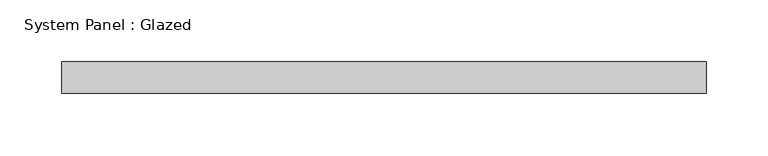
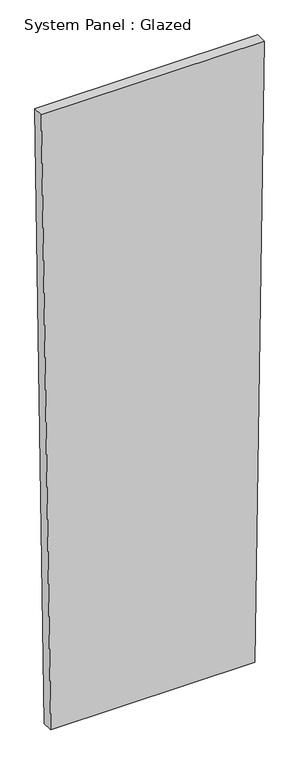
"""IFC4 building model written with IfcOpenShell, lengths in millimetres: plate geometry, System Panel : Glazed."""

from ifc_helpers import new_model, si_unit, frame, origin, place, context, project, spatial, polyline, outline, extrude, source, transform, mapped, element, save


def system_panel_glazed_03378611(model_context):
    return source(origin(), model_context, "Body", "SweptSolid", [
        extrude(outline(polyline([(0.0, -237.8357952), (0.0, 237.8357952), (1523.8417351, 259.7986329), (1523.8417351, -259.7986329), (0.0, -237.8357952)])), frame((0.0, -44.45, 0.0), z_axis=(0.0, 1.0, 0.0), x_axis=(0.0, 0.0, 1.0)), (0.0, 0.0, 1.0), 25.4),
    ])


if __name__ == "__main__":
    model = new_model("IFC4")
    model_context = context("Model", 3, world=origin())
    ifc_project = project(units=[si_unit("LENGTHUNIT", "METRE", prefix="MILLI")], contexts=[model_context])
    site = spatial("IfcSite", under=ifc_project)
    building = spatial("IfcBuilding", under=site)
    placement = place(None, origin())
    system_panel_glazed_shape = system_panel_glazed_03378611(model_context)
    element("IfcPlate", 1, ObjectType="System Panel : Glazed", at=placement, inside=building, context=model_context, shape_type="MappedRepresentation", body=[
        mapped(system_panel_glazed_shape, transform((0.0, 0.0, 0.0), x_axis=(1.0, 0.0, 0.0), y_axis=(0.0, 1.0, 0.0), z_axis=(0.0, 0.0, 1.0))),
    ])
    save(model, "model.ifc")
